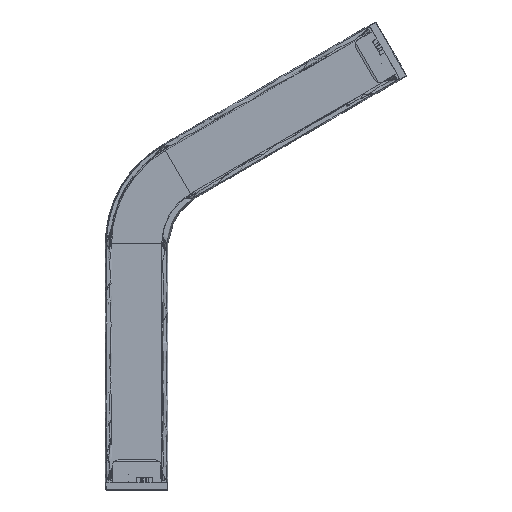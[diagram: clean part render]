
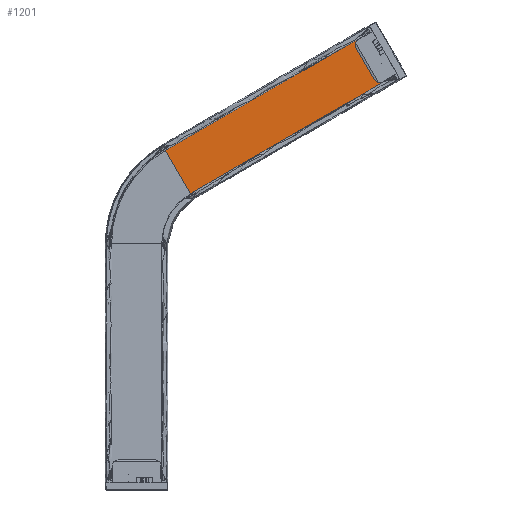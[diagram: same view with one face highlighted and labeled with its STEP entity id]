
A CAD part, top view. The second image highlights one B-rep face of the part: STEP entity #1201.
In plain terms, the highlighted free-form (B-spline) face has degree [1, 3] with [2, 4] control points.
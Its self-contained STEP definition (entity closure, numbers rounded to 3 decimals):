
#1201=ADVANCED_FACE('',(#3123),#68531,.T.);
#3123=FACE_OUTER_BOUND('',#5088,.T.);
#5088=EDGE_LOOP('',(#11648,#11649,#11650,#11651));
#11648=ORIENTED_EDGE('',*,*,#46836,.T.);
#11649=ORIENTED_EDGE('',*,*,#46835,.F.);
#11650=ORIENTED_EDGE('',*,*,#46818,.F.);
#11651=ORIENTED_EDGE('',*,*,#46837,.T.);
#23337=PCURVE('',#68522,#33849);
#23371=PCURVE('',#68530,#33883);
#23372=PCURVE('',#68531,#33884);
#23373=PCURVE('',#68531,#33885);
#23374=PCURVE('',#68531,#33886);
#23375=PCURVE('',#68531,#33887);
#23377=PCURVE('',#68532,#33889);
#23384=PCURVE('',#68534,#33896);
#33849=DEFINITIONAL_REPRESENTATION('',(#56877),#165459);
#33883=DEFINITIONAL_REPRESENTATION('',(#56928),#165459);
#33884=DEFINITIONAL_REPRESENTATION('',(#56930),#165459);
#33885=DEFINITIONAL_REPRESENTATION('',(#56931),#165459);
#33886=DEFINITIONAL_REPRESENTATION('',(#56932),#165459);
#33887=DEFINITIONAL_REPRESENTATION('',(#56934),#165459);
#33889=DEFINITIONAL_REPRESENTATION('',(#56937),#165459);
#33896=DEFINITIONAL_REPRESENTATION('',(#56946),#165459);
#41562=SURFACE_CURVE('',#56876,(#23337,#23374),.PCURVE_S1.);
#41579=SURFACE_CURVE('',#56927,(#23371,#23373),.PCURVE_S1.);
#41580=SURFACE_CURVE('',#56929,(#23372,#23384),.PCURVE_S1.);
#41581=SURFACE_CURVE('',#56933,(#23375,#23377),.PCURVE_S1.);
#46818=EDGE_CURVE('',#65616,#65613,#41562,.T.);
#46835=EDGE_CURVE('',#65613,#65621,#41579,.T.);
#46836=EDGE_CURVE('',#65623,#65621,#41580,.T.);
#46837=EDGE_CURVE('',#65616,#65623,#41581,.T.);
#56876=B_SPLINE_CURVE_WITH_KNOTS('',1,(#123751,#123752),.UNSPECIFIED.,.F.,
 .F.,(2,2),(-51.,0.),.UNSPECIFIED.);
#56877=B_SPLINE_CURVE_WITH_KNOTS('',1,(#123753,#123754),.UNSPECIFIED.,.F.,
 .F.,(2,2),(-51.,0.),.UNSPECIFIED.);
#56927=B_SPLINE_CURVE_WITH_KNOTS('',3,(#123874,#123875,#123876,#123877),
 .UNSPECIFIED.,.F.,.F.,(4,4),(0.,202.),.UNSPECIFIED.);
#56928=B_SPLINE_CURVE_WITH_KNOTS('',1,(#123878,#123879),.UNSPECIFIED.,.F.,
 .F.,(2,2),(0.,202.),.UNSPECIFIED.);
#56929=B_SPLINE_CURVE_WITH_KNOTS('',1,(#123880,#123881),.UNSPECIFIED.,.F.,
 .F.,(2,2),(1.5,47.5),.UNSPECIFIED.);
#56930=B_SPLINE_CURVE_WITH_KNOTS('',1,(#123882,#123883),.UNSPECIFIED.,.F.,
 .F.,(2,2),(1.5,47.5),.UNSPECIFIED.);
#56931=B_SPLINE_CURVE_WITH_KNOTS('',1,(#123884,#123885),.UNSPECIFIED.,.F.,
 .F.,(2,2),(0.,202.),.UNSPECIFIED.);
#56932=B_SPLINE_CURVE_WITH_KNOTS('',1,(#123886,#123887),.UNSPECIFIED.,.F.,
 .F.,(2,2),(-51.,0.),.UNSPECIFIED.);
#56933=B_SPLINE_CURVE_WITH_KNOTS('',3,(#123888,#123889,#123890,#123891),
 .UNSPECIFIED.,.F.,.F.,(4,4),(0.,202.),.UNSPECIFIED.);
#56934=B_SPLINE_CURVE_WITH_KNOTS('',1,(#123892,#123893),.UNSPECIFIED.,.F.,
 .F.,(2,2),(0.,202.),.UNSPECIFIED.);
#56937=B_SPLINE_CURVE_WITH_KNOTS('',1,(#123900,#123901),.UNSPECIFIED.,.F.,
 .F.,(2,2),(0.,202.),.UNSPECIFIED.);
#56946=B_SPLINE_CURVE_WITH_KNOTS('',1,(#123920,#123921),.UNSPECIFIED.,.F.,
 .F.,(2,2),(1.5,47.5),.UNSPECIFIED.);
#65613=VERTEX_POINT('',#123692);
#65616=VERTEX_POINT('',#123695);
#65621=VERTEX_POINT('',#123700);
#65623=VERTEX_POINT('',#123702);
#68522=B_SPLINE_SURFACE_WITH_KNOTS('',1,3,((#123550,#123551,#123552,#123553,
#123554,#123555,#123556,#123557,#123558,#123559,#123560),(#123561,#123562,
#123563,#123564,#123565,#123566,#123567,#123568,#123569,#123570,#123571)),
 .UNSPECIFIED.,.F.,.F.,.F.,(2,2),(4,1,1,1,1,1,1,1,4),(0.,51.),(0.,12.696,
25.724,38.982,52.36,65.737,78.996,
92.024,104.72),.UNSPECIFIED.);
#68530=B_SPLINE_SURFACE_WITH_KNOTS('',1,3,((#123652,#123653,#123654,#123655),
(#123656,#123657,#123658,#123659)),.UNSPECIFIED.,.F.,.F.,.F.,(2,2),(4,4),
(103.2,104.4),(0.,210.),.UNSPECIFIED.);
#68531=B_SPLINE_SURFACE_WITH_KNOTS('',1,3,((#123660,#123661,#123662,#123663),
(#123664,#123665,#123666,#123667)),.UNSPECIFIED.,.F.,.F.,.F.,(2,2),(4,4),
(0.,51.),(0.,210.),.UNSPECIFIED.);
#68532=B_SPLINE_SURFACE_WITH_KNOTS('',1,3,((#123668,#123669,#123670,#123671),
(#123672,#123673,#123674,#123675)),.UNSPECIFIED.,.F.,.F.,.F.,(2,2),(4,4),
(51.,52.2),(0.,210.),.UNSPECIFIED.);
#68534=B_SPLINE_SURFACE_WITH_KNOTS('',1,1,((#123684,#123685),(#123686,#123687)),
 .UNSPECIFIED.,.F.,.F.,.F.,(2,2),(2,2),(0.,49.),(0.,46.781),
 .UNSPECIFIED.);
#123550=CARTESIAN_POINT('',(-23.,210.,62.937));
#123551=CARTESIAN_POINT('',(-23.,214.041,62.937));
#123552=CARTESIAN_POINT('',(-22.479,222.23,62.937));
#123553=CARTESIAN_POINT('',(-20.105,234.437,62.937));
#123554=CARTESIAN_POINT('',(-16.082,246.435,62.937));
#123555=CARTESIAN_POINT('',(-10.453,257.893,62.937));
#123556=CARTESIAN_POINT('',(-3.345,268.497,62.937));
#123557=CARTESIAN_POINT('',(5.034,277.98,62.937));
#123558=CARTESIAN_POINT('',(14.419,286.139,62.937));
#123559=CARTESIAN_POINT('',(21.25,290.685,62.937));
#123560=CARTESIAN_POINT('',(24.75,292.705,62.937));
#123561=CARTESIAN_POINT('',(23.,210.,62.937));
#123562=CARTESIAN_POINT('',(23.,212.095,62.937));
#123563=CARTESIAN_POINT('',(23.27,216.339,62.937));
#123564=CARTESIAN_POINT('',(24.5,222.666,62.937));
#123565=CARTESIAN_POINT('',(26.586,228.885,62.937));
#123566=CARTESIAN_POINT('',(29.504,234.824,62.937));
#123567=CARTESIAN_POINT('',(33.188,240.321,62.937));
#123568=CARTESIAN_POINT('',(37.531,245.236,62.937));
#123569=CARTESIAN_POINT('',(42.395,249.465,62.937));
#123570=CARTESIAN_POINT('',(45.936,251.821,62.937));
#123571=CARTESIAN_POINT('',(47.75,252.868,62.937));
#123652=CARTESIAN_POINT('',(24.75,292.705,61.937));
#123653=CARTESIAN_POINT('',(85.372,327.705,61.937));
#123654=CARTESIAN_POINT('',(145.994,362.705,61.937));
#123655=CARTESIAN_POINT('',(206.615,397.705,61.937));
#123656=CARTESIAN_POINT('',(24.75,292.705,62.937));
#123657=CARTESIAN_POINT('',(85.372,327.705,62.937));
#123658=CARTESIAN_POINT('',(145.994,362.705,62.937));
#123659=CARTESIAN_POINT('',(206.615,397.705,62.937));
#123660=CARTESIAN_POINT('',(24.75,292.705,62.937));
#123661=CARTESIAN_POINT('',(85.372,327.705,62.937));
#123662=CARTESIAN_POINT('',(145.994,362.705,62.937));
#123663=CARTESIAN_POINT('',(206.615,397.705,62.937));
#123664=CARTESIAN_POINT('',(47.75,252.868,62.937));
#123665=CARTESIAN_POINT('',(108.372,287.868,62.937));
#123666=CARTESIAN_POINT('',(168.994,322.868,62.937));
#123667=CARTESIAN_POINT('',(229.615,357.868,62.937));
#123668=CARTESIAN_POINT('',(47.75,252.868,62.937));
#123669=CARTESIAN_POINT('',(108.372,287.868,62.937));
#123670=CARTESIAN_POINT('',(168.994,322.868,62.937));
#123671=CARTESIAN_POINT('',(229.615,357.868,62.937));
#123672=CARTESIAN_POINT('',(47.75,252.868,61.937));
#123673=CARTESIAN_POINT('',(108.372,287.868,61.937));
#123674=CARTESIAN_POINT('',(168.994,322.868,61.937));
#123675=CARTESIAN_POINT('',(229.615,357.868,61.937));
#123684=CARTESIAN_POINT('',(223.437,352.569,20.791));
#123685=CARTESIAN_POINT('',(223.437,352.569,67.572));
#123686=CARTESIAN_POINT('',(198.937,395.004,20.791));
#123687=CARTESIAN_POINT('',(198.937,395.004,67.572));
#123692=CARTESIAN_POINT('',(24.75,292.705,62.937));
#123695=CARTESIAN_POINT('',(47.75,252.868,62.937));
#123700=CARTESIAN_POINT('',(199.687,393.705,62.937));
#123702=CARTESIAN_POINT('',(222.687,353.868,62.937));
#123751=CARTESIAN_POINT('',(47.75,252.868,62.937));
#123752=CARTESIAN_POINT('',(24.75,292.705,62.937));
#123753=CARTESIAN_POINT('',(51.,104.72));
#123754=CARTESIAN_POINT('',(0.,104.72));
#123874=CARTESIAN_POINT('',(24.75,292.705,62.937));
#123875=CARTESIAN_POINT('',(83.062,326.372,62.937));
#123876=CARTESIAN_POINT('',(141.375,360.039,62.937));
#123877=CARTESIAN_POINT('',(199.687,393.705,62.937));
#123878=CARTESIAN_POINT('',(104.4,0.));
#123879=CARTESIAN_POINT('',(104.4,202.));
#123880=CARTESIAN_POINT('',(222.687,353.868,62.937));
#123881=CARTESIAN_POINT('',(199.687,393.705,62.937));
#123882=CARTESIAN_POINT('',(51.,202.));
#123883=CARTESIAN_POINT('',(0.,202.));
#123884=CARTESIAN_POINT('',(0.,0.));
#123885=CARTESIAN_POINT('',(0.,202.));
#123886=CARTESIAN_POINT('',(51.,0.));
#123887=CARTESIAN_POINT('',(0.,0.));
#123888=CARTESIAN_POINT('',(47.75,252.868,62.937));
#123889=CARTESIAN_POINT('',(106.062,286.535,62.937));
#123890=CARTESIAN_POINT('',(164.375,320.202,62.937));
#123891=CARTESIAN_POINT('',(222.687,353.868,62.937));
#123892=CARTESIAN_POINT('',(51.,0.));
#123893=CARTESIAN_POINT('',(51.,202.));
#123900=CARTESIAN_POINT('',(51.,0.));
#123901=CARTESIAN_POINT('',(51.,202.));
#123920=CARTESIAN_POINT('',(1.5,42.146));
#123921=CARTESIAN_POINT('',(47.5,42.146));
#165459=(
GEOMETRIC_REPRESENTATION_CONTEXT(2)
PARAMETRIC_REPRESENTATION_CONTEXT()
REPRESENTATION_CONTEXT('pspace','')
);
